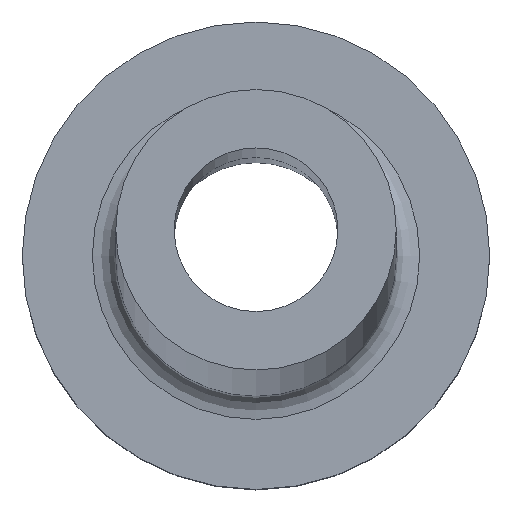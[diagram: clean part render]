
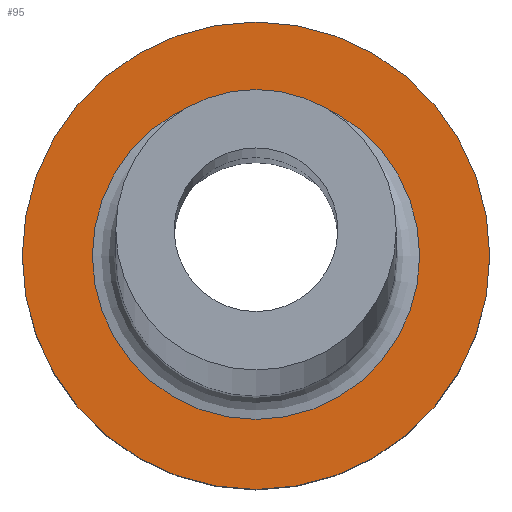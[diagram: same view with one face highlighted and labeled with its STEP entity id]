
A CAD part, top view. The second image highlights one B-rep face of the part: STEP entity #95.
In plain terms, the highlighted planar face has unit normal (0, 0, 1).
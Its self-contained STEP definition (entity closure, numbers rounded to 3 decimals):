
#5 = VERTEX_POINT ( 'NONE', #154 ) ;
#16 = AXIS2_PLACEMENT_3D ( 'NONE', #46, #219, #277 ) ;
#17 = DIRECTION ( 'NONE',  ( 1., 0., 0. ) ) ;
#18 = CIRCLE ( 'NONE', #16, 3.5 ) ;
#22 = AXIS2_PLACEMENT_3D ( 'NONE', #55, #189, #17 ) ;
#24 = FACE_BOUND ( 'NONE', #269, .T. ) ;
#46 = CARTESIAN_POINT ( 'NONE',  ( 0., 0., 6. ) ) ;
#52 = ORIENTED_EDGE ( 'NONE', *, *, #69, .T. ) ;
#55 = CARTESIAN_POINT ( 'NONE',  ( 0., 0., 6. ) ) ;
#57 = EDGE_CURVE ( 'NONE', #5, #5, #139, .T. ) ;
#61 = PLANE ( 'NONE',  #138 ) ;
#69 = EDGE_CURVE ( 'NONE', #188, #188, #18, .T. ) ;
#70 = CARTESIAN_POINT ( 'NONE',  ( 3.5, 0., 6. ) ) ;
#88 = FACE_OUTER_BOUND ( 'NONE', #90, .T. ) ;
#90 = EDGE_LOOP ( 'NONE', ( #131 ) ) ;
#95 = ADVANCED_FACE ( 'NONE', ( #24, #88 ), #61, .T. ) ;
#104 = DIRECTION ( 'NONE',  ( 1., 0., 0. ) ) ;
#113 = CARTESIAN_POINT ( 'NONE',  ( 0., 0., 6. ) ) ;
#131 = ORIENTED_EDGE ( 'NONE', *, *, #57, .T. ) ;
#138 = AXIS2_PLACEMENT_3D ( 'NONE', #113, #235, #104 ) ;
#139 = CIRCLE ( 'NONE', #22, 5. ) ;
#154 = CARTESIAN_POINT ( 'NONE',  ( 5., 0., 6. ) ) ;
#188 = VERTEX_POINT ( 'NONE', #70 ) ;
#189 = DIRECTION ( 'NONE',  ( 0., 0., 1. ) ) ;
#219 = DIRECTION ( 'NONE',  ( 0., 0., -1. ) ) ;
#235 = DIRECTION ( 'NONE',  ( 0., 0., 1. ) ) ;
#269 = EDGE_LOOP ( 'NONE', ( #52 ) ) ;
#277 = DIRECTION ( 'NONE',  ( 1., 0., 0. ) ) ;
